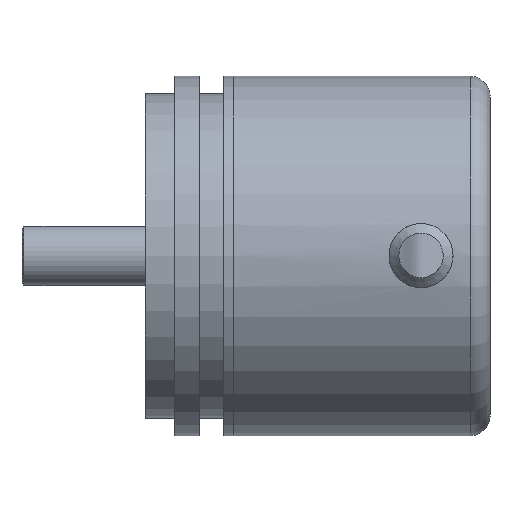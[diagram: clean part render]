
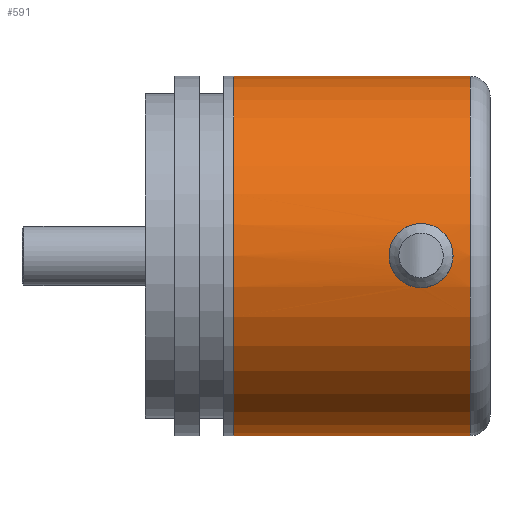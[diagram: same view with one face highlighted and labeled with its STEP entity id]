
A CAD part, top view. The second image highlights one B-rep face of the part: STEP entity #591.
In plain terms, the highlighted cylindrical face has radius 18.245 mm (diameter 36.49 mm), a full revolution.
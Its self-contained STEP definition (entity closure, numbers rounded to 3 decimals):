
#4 = CIRCLE ( 'NONE', #428, 18.245 ) ;
#21 = B_SPLINE_CURVE_WITH_KNOTS ( 'NONE', 3,
 ( #356, #198, #352, #203, #349, #390, #104, #201, #200, #304, #359, #268, #363, #345, #269, #301, #383, #351, #277, #194, #149, #150, #151, #192, #195, #259, #258, #181, #205, #204, #190, #207, #99, #180, #182, #183, #186, #231, #232, #185, #233, #234, #235, #236, #237, #238, #240, #239, #241, #242, #243, #245, #244, #246, #248, #247, #223, #222, #221, #226, #225, #224, #191, #218 ),
 .UNSPECIFIED., .T., .F.,
 ( 4, 2, 2, 2, 2, 2, 2, 2, 2, 2, 2, 2, 2, 2, 2, 2, 2, 2, 2, 2, 2, 2, 2, 2, 2, 2, 2, 2, 2, 2, 2, 4 ),
 ( 0., 0.001, 0.001, 0.002, 0.003, 0.003, 0.004, 0.004, 0.005, 0.006, 0.006, 0.007, 0.008, 0.008, 0.009, 0.01, 0.01, 0.011, 0.011, 0.012, 0.013, 0.013, 0.014, 0.015, 0.015, 0.016, 0.017, 0.017, 0.018, 0.019, 0.02, 0.02 ),
 .UNSPECIFIED. ) ;
#22 = CYLINDRICAL_SURFACE ( 'NONE', #482, 18.245 ) ;
#99 = CARTESIAN_POINT ( 'NONE',  ( 23.25, -0.214, 18.245 ) ) ;
#104 = CARTESIAN_POINT ( 'NONE',  ( 17.18, -1.629, 18.173 ) ) ;
#149 = CARTESIAN_POINT ( 'NONE',  ( 21.046, -3.084, 17.983 ) ) ;
#150 = CARTESIAN_POINT ( 'NONE',  ( 21.44, -2.921, 18.01 ) ) ;
#151 = CARTESIAN_POINT ( 'NONE',  ( 21.63, -2.82, 18.026 ) ) ;
#180 = CARTESIAN_POINT ( 'NONE',  ( 23.25, 0.211, 18.245 ) ) ;
#181 = CARTESIAN_POINT ( 'NONE',  ( 22.818, -1.632, 18.173 ) ) ;
#182 = CARTESIAN_POINT ( 'NONE',  ( 23.23, 0.422, 18.241 ) ) ;
#183 = CARTESIAN_POINT ( 'NONE',  ( 23.146, 0.843, 18.227 ) ) ;
#185 = CARTESIAN_POINT ( 'NONE',  ( 22.584, 1.983, 18.138 ) ) ;
#186 = CARTESIAN_POINT ( 'NONE',  ( 23.084, 1.047, 18.216 ) ) ;
#190 = CARTESIAN_POINT ( 'NONE',  ( 23.145, -0.847, 18.227 ) ) ;
#191 = CARTESIAN_POINT ( 'NONE',  ( 16.75, 0.215, 18.245 ) ) ;
#192 = CARTESIAN_POINT ( 'NONE',  ( 21.982, -2.585, 18.061 ) ) ;
#194 = CARTESIAN_POINT ( 'NONE',  ( 20.844, -3.146, 17.972 ) ) ;
#195 = CARTESIAN_POINT ( 'NONE',  ( 22.146, -2.45, 18.08 ) ) ;
#198 = CARTESIAN_POINT ( 'NONE',  ( 16.75, -0.215, 18.245 ) ) ;
#200 = CARTESIAN_POINT ( 'NONE',  ( 17.553, -2.149, 18.119 ) ) ;
#201 = CARTESIAN_POINT ( 'NONE',  ( 17.416, -1.982, 18.138 ) ) ;
#203 = CARTESIAN_POINT ( 'NONE',  ( 16.854, -0.843, 18.227 ) ) ;
#204 = CARTESIAN_POINT ( 'NONE',  ( 23.083, -1.049, 18.216 ) ) ;
#205 = CARTESIAN_POINT ( 'NONE',  ( 22.92, -1.442, 18.189 ) ) ;
#207 = CARTESIAN_POINT ( 'NONE',  ( 23.229, -0.429, 18.241 ) ) ;
#218 = CARTESIAN_POINT ( 'NONE',  ( 16.75, 0., 18.245 ) ) ;
#221 = CARTESIAN_POINT ( 'NONE',  ( 17.162, 1.639, 18.175 ) ) ;
#222 = CARTESIAN_POINT ( 'NONE',  ( 17.404, 2.001, 18.137 ) ) ;
#223 = CARTESIAN_POINT ( 'NONE',  ( 17.853, 2.449, 18.08 ) ) ;
#224 = CARTESIAN_POINT ( 'NONE',  ( 16.771, 0.428, 18.241 ) ) ;
#225 = CARTESIAN_POINT ( 'NONE',  ( 16.855, 0.847, 18.227 ) ) ;
#226 = CARTESIAN_POINT ( 'NONE',  ( 16.918, 1.053, 18.216 ) ) ;
#231 = CARTESIAN_POINT ( 'NONE',  ( 22.922, 1.439, 18.189 ) ) ;
#232 = CARTESIAN_POINT ( 'NONE',  ( 22.821, 1.628, 18.173 ) ) ;
#233 = CARTESIAN_POINT ( 'NONE',  ( 22.45, 2.146, 18.119 ) ) ;
#234 = CARTESIAN_POINT ( 'NONE',  ( 22.151, 2.446, 18.081 ) ) ;
#235 = CARTESIAN_POINT ( 'NONE',  ( 21.984, 2.583, 18.062 ) ) ;
#236 = CARTESIAN_POINT ( 'NONE',  ( 21.632, 2.819, 18.026 ) ) ;
#237 = CARTESIAN_POINT ( 'NONE',  ( 21.445, 2.919, 18.01 ) ) ;
#238 = CARTESIAN_POINT ( 'NONE',  ( 21.051, 3.083, 17.983 ) ) ;
#239 = CARTESIAN_POINT ( 'NONE',  ( 20.43, 3.228, 17.957 ) ) ;
#240 = CARTESIAN_POINT ( 'NONE',  ( 20.845, 3.145, 17.972 ) ) ;
#241 = CARTESIAN_POINT ( 'NONE',  ( 20.217, 3.25, 17.953 ) ) ;
#242 = CARTESIAN_POINT ( 'NONE',  ( 19.788, 3.25, 17.953 ) ) ;
#243 = CARTESIAN_POINT ( 'NONE',  ( 19.576, 3.229, 17.957 ) ) ;
#244 = CARTESIAN_POINT ( 'NONE',  ( 18.953, 3.084, 17.983 ) ) ;
#245 = CARTESIAN_POINT ( 'NONE',  ( 19.16, 3.147, 17.972 ) ) ;
#246 = CARTESIAN_POINT ( 'NONE',  ( 18.56, 2.921, 18.01 ) ) ;
#247 = CARTESIAN_POINT ( 'NONE',  ( 18.02, 2.586, 18.061 ) ) ;
#248 = CARTESIAN_POINT ( 'NONE',  ( 18.374, 2.822, 18.026 ) ) ;
#250 = CARTESIAN_POINT ( 'NONE',  ( 25., 0., 0. ) ) ;
#251 = DIRECTION ( 'NONE',  ( 0., -1., 0. ) ) ;
#252 = DIRECTION ( 'NONE',  ( -1., 0., 0. ) ) ;
#258 = CARTESIAN_POINT ( 'NONE',  ( 22.583, -1.984, 18.138 ) ) ;
#259 = CARTESIAN_POINT ( 'NONE',  ( 22.449, -2.148, 18.119 ) ) ;
#264 = DIRECTION ( 'NONE',  ( 0., -1., 0. ) ) ;
#265 = CARTESIAN_POINT ( 'NONE',  ( 1., 0., 0. ) ) ;
#268 = CARTESIAN_POINT ( 'NONE',  ( 18.37, -2.82, 18.026 ) ) ;
#269 = CARTESIAN_POINT ( 'NONE',  ( 19.155, -3.145, 17.972 ) ) ;
#274 = CARTESIAN_POINT ( 'NONE',  ( 16.75, 0., 18.245 ) ) ;
#277 = CARTESIAN_POINT ( 'NONE',  ( 20.426, -3.229, 17.957 ) ) ;
#283 = DIRECTION ( 'NONE',  ( -1., 0., 0. ) ) ;
#301 = CARTESIAN_POINT ( 'NONE',  ( 19.575, -3.229, 17.957 ) ) ;
#304 = CARTESIAN_POINT ( 'NONE',  ( 17.852, -2.448, 18.081 ) ) ;
#312 = CARTESIAN_POINT ( 'NONE',  ( 1., -18.245, 0. ) ) ;
#321 = DIRECTION ( 'NONE',  ( -1., 0., 0. ) ) ;
#345 = CARTESIAN_POINT ( 'NONE',  ( 18.95, -3.083, 17.983 ) ) ;
#347 = CARTESIAN_POINT ( 'NONE',  ( -20.5, 0., 0. ) ) ;
#349 = CARTESIAN_POINT ( 'NONE',  ( 16.917, -1.049, 18.216 ) ) ;
#351 = CARTESIAN_POINT ( 'NONE',  ( 20.211, -3.25, 17.953 ) ) ;
#352 = CARTESIAN_POINT ( 'NONE',  ( 16.771, -0.427, 18.241 ) ) ;
#356 = CARTESIAN_POINT ( 'NONE',  ( 16.75, 0., 18.245 ) ) ;
#359 = CARTESIAN_POINT ( 'NONE',  ( 18.015, -2.582, 18.062 ) ) ;
#363 = CARTESIAN_POINT ( 'NONE',  ( 18.559, -2.921, 18.01 ) ) ;
#365 = CARTESIAN_POINT ( 'NONE',  ( 25., -18.245, 0. ) ) ;
#383 = CARTESIAN_POINT ( 'NONE',  ( 19.786, -3.25, 17.953 ) ) ;
#387 = DIRECTION ( 'NONE',  ( 0., -1., 0. ) ) ;
#390 = CARTESIAN_POINT ( 'NONE',  ( 17.08, -1.443, 18.189 ) ) ;
#399 = EDGE_CURVE ( 'NONE', #724, #724, #4, .T. ) ;
#402 = EDGE_CURVE ( 'NONE', #708, #708, #21, .T. ) ;
#406 = EDGE_CURVE ( 'NONE', #705, #705, #763, .T. ) ;
#428 = AXIS2_PLACEMENT_3D ( 'NONE', #265, #283, #264 ) ;
#434 = AXIS2_PLACEMENT_3D ( 'NONE', #250, #252, #251 ) ;
#482 = AXIS2_PLACEMENT_3D ( 'NONE', #347, #321, #387 ) ;
#591 = ADVANCED_FACE ( 'NONE', ( #660, #683, #668 ), #22, .T. ) ;
#642 = EDGE_LOOP ( 'NONE', ( #819 ) ) ;
#660 = FACE_OUTER_BOUND ( 'NONE', #820, .T. ) ;
#668 = FACE_BOUND ( 'NONE', #642, .T. ) ;
#683 = FACE_OUTER_BOUND ( 'NONE', #769, .T. ) ;
#705 = VERTEX_POINT ( 'NONE', #365 ) ;
#708 = VERTEX_POINT ( 'NONE', #274 ) ;
#724 = VERTEX_POINT ( 'NONE', #312 ) ;
#763 = CIRCLE ( 'NONE', #434, 18.245 ) ;
#769 = EDGE_LOOP ( 'NONE', ( #814 ) ) ;
#814 = ORIENTED_EDGE ( 'NONE', *, *, #399, .F. ) ;
#817 = ORIENTED_EDGE ( 'NONE', *, *, #406, .T. ) ;
#819 = ORIENTED_EDGE ( 'NONE', *, *, #402, .F. ) ;
#820 = EDGE_LOOP ( 'NONE', ( #817 ) ) ;
